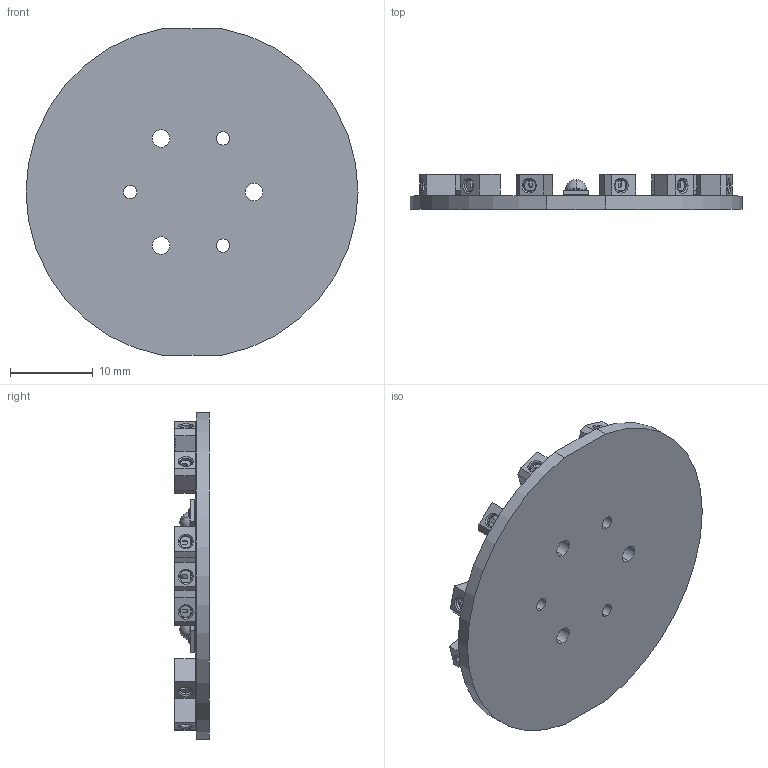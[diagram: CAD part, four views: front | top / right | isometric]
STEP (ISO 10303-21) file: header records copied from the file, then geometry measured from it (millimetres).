
FILE_DESCRIPTION (( 'STEP AP214' ), '1' );
FILE_NAME ('SW-02.STEP', '2023-11-14T02:21:10', ( '' ), ( '' ), 'SwSTEP 2.0', 'SolidWorks 2021', '' );
FILE_SCHEMA (( 'AUTOMOTIVE_DESIGN' ));
Length unit declared in the file: millimetre
Products named in the file (1): SW-02
Bounding box: 40 x 4.18 x 39.38 mm (x, y, z)
Volume: 2356.6 mm3; surface area: 4570.7 mm2
Topology: 36 solids, 36 shells, 3562 faces, 9450 edges, 6167 vertices
Faces by surface type: plane 2407, cylinder 677, bspline 338, cone 56, torus 42, sphere 42
Entity records: 136806 total; most frequent: CARTESIAN_POINT 33838, ORIENTED_EDGE 18802, DIRECTION 16662, EDGE_CURVE 9401, VECTOR 7238, LINE 7238, VERTEX_POINT 6160, AXIS2_PLACEMENT_3D 4712
